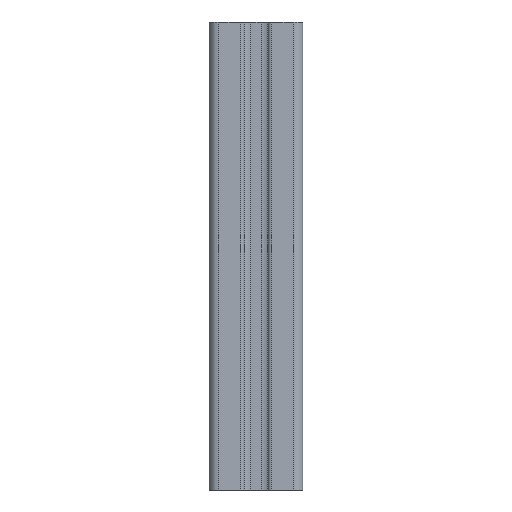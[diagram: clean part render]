
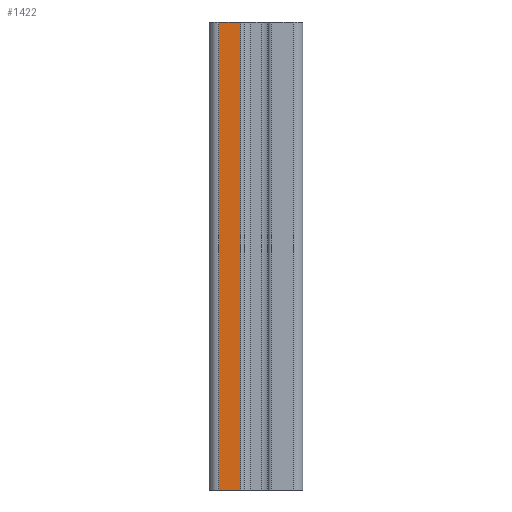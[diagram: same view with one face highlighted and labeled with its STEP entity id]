
A CAD part, front view. The second image highlights one B-rep face of the part: STEP entity #1422.
In plain terms, the highlighted planar face has unit normal (0, -1, 0).
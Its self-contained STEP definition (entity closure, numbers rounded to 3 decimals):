
#42=LINE('',#2169,#186);
#43=LINE('',#2173,#187);
#44=LINE('',#2175,#188);
#45=LINE('',#2176,#189);
#186=VECTOR('',#1724,100.);
#187=VECTOR('',#1729,4.7);
#188=VECTOR('',#1730,100.);
#189=VECTOR('',#1731,4.7);
#309=PLANE('',#1516);
#360=FACE_OUTER_BOUND('',#434,.T.);
#434=EDGE_LOOP('',(#992,#993,#994,#995));
#600=VERTEX_POINT('',#2166);
#601=VERTEX_POINT('',#2168);
#602=VERTEX_POINT('',#2172);
#603=VERTEX_POINT('',#2174);
#759=EDGE_CURVE('',#601,#600,#42,.T.);
#761=EDGE_CURVE('',#600,#602,#43,.T.);
#762=EDGE_CURVE('',#603,#602,#44,.T.);
#763=EDGE_CURVE('',#603,#601,#45,.T.);
#992=ORIENTED_EDGE('',*,*,#761,.T.);
#993=ORIENTED_EDGE('',*,*,#762,.F.);
#994=ORIENTED_EDGE('',*,*,#763,.T.);
#995=ORIENTED_EDGE('',*,*,#759,.T.);
#1422=ADVANCED_FACE('',(#360),#309,.T.);
#1516=AXIS2_PLACEMENT_3D('',#2171,#1727,#1728);
#1724=DIRECTION('',(0.,0.,1.));
#1727=DIRECTION('center_axis',(0.,-1.,0.));
#1728=DIRECTION('ref_axis',(0.,0.,-1.));
#1729=DIRECTION('',(-1.,0.,0.));
#1730=DIRECTION('',(0.,0.,1.));
#1731=DIRECTION('',(1.,0.,0.));
#2166=CARTESIAN_POINT('',(-3.3,-10.,100.));
#2168=CARTESIAN_POINT('',(-3.3,-10.,0.));
#2169=CARTESIAN_POINT('',(-3.3,-10.,0.));
#2171=CARTESIAN_POINT('Origin',(-3.3,-10.,0.));
#2172=CARTESIAN_POINT('',(-8.,-10.,100.));
#2173=CARTESIAN_POINT('',(-8.,-10.,100.));
#2174=CARTESIAN_POINT('',(-8.,-10.,0.));
#2175=CARTESIAN_POINT('',(-8.,-10.,0.));
#2176=CARTESIAN_POINT('',(-8.,-10.,0.));
